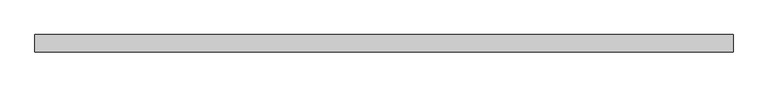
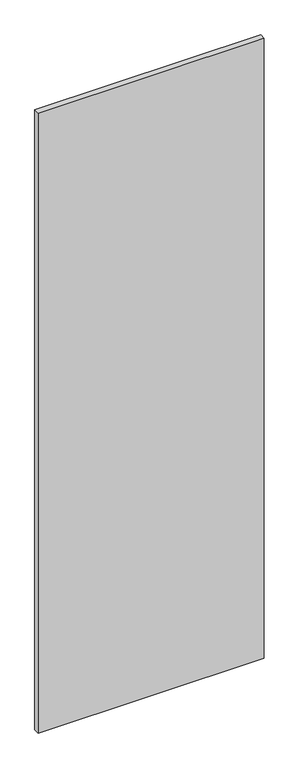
"""IFC4 building model written with IfcOpenShell, lengths in millimetres: plate geometry, Системная панель : ADSK_Cтеклопакет_25."""

import ifcopenshell
import ifcopenshell.guid

model = None  # the IFC model being written
_history = None  # IfcOwnerHistory: only IFC2X3 demands one
_inside = {}  # id of a spatial element -> (the spatial element, [elements in it])
_under = {}  # id of a project, library or spatial element -> (it, [spatial elements below it])
_declared = {}  # id of a project -> (the project, [libraries it declares])
_typed = {}  # id of a type object -> (the type object, [elements of that type])
_made_of = {}  # id of a material, layer set ... -> (it, [elements and type objects made of it])


def new_model(schema):
    """Start an empty IFC model of exactly this schema.

    Asked for "IFC4X3", IfcOpenShell would pick the latest addendum, in which some entities
    have other attributes; the version numbers below select the first issue.
    IFC2X3 requires an IfcOwnerHistory on every rooted entity: one is made here for all.
    """
    global model, _history
    if schema == "IFC4X3":
        model = ifcopenshell.file(schema_version=(4, 3, 0, 0))
    else:
        model = ifcopenshell.file(schema=schema)
    _inside.clear()
    _under.clear()
    _declared.clear()
    _typed.clear()
    _made_of.clear()
    _history = None
    if model.schema == "IFC2X3":
        org = make("IfcOrganization", Name="unknown")
        user = make(
            "IfcPersonAndOrganization",
            ThePerson=make("IfcPerson", FamilyName="unknown"),
            TheOrganization=org,
        )
        app = make(
            "IfcApplication",
            ApplicationDeveloper=org,
            Version="unknown",
            ApplicationFullName="unknown",
            ApplicationIdentifier="unknown",
        )
        _history = make(
            "IfcOwnerHistory",
            OwningUser=user,
            OwningApplication=app,
            ChangeAction="ADDED",
            CreationDate=0,
        )
    return model


def make(cls, **values):
    """One entity of the class cls with the attributes given. An attribute that is None is left unset."""
    return model.create_entity(
        cls, **{name: value for name, value in values.items() if value is not None}
    )


def rooted(cls, **values):
    """An entity with a GlobalId (a new one), such as an element, a storey or a relation."""
    return make(cls, GlobalId=ifcopenshell.guid.new(), OwnerHistory=_history, **values)


def si_unit(unit_type, name, prefix=None):
    """IfcSIUnit, for example si_unit("LENGTHUNIT", "METRE", prefix="MILLI")."""
    return make("IfcSIUnit", UnitType=unit_type, Prefix=prefix, Name=name)


def assignment(units):
    """IfcUnitAssignment: the units of a project."""
    return None if units is None else make("IfcUnitAssignment", Units=units)


def point(xyz):
    """IfcCartesianPoint."""
    return None if xyz is None else make("IfcCartesianPoint", Coordinates=xyz)


def direction(xyz):
    """IfcDirection."""
    return None if xyz is None else make("IfcDirection", DirectionRatios=xyz)


def frame(location, z_axis=None, x_axis=None):
    """IfcAxis2Placement3D, a coordinate frame: its origin and axes. An axis left out is left unset."""
    return make(
        "IfcAxis2Placement3D",
        Location=point(location),
        Axis=direction(z_axis),
        RefDirection=direction(x_axis),
    )


def origin():
    """The frame at (0, 0, 0) with its axes left unset."""
    return frame((0.0, 0.0, 0.0))


def origin_with_axes():
    """The frame at (0, 0, 0) with the z axis (0, 0, 1) and the x axis (1, 0, 0) written out."""
    return frame((0.0, 0.0, 0.0), z_axis=(0.0, 0.0, 1.0), x_axis=(1.0, 0.0, 0.0))


def place(relative_to, where):
    """IfcLocalPlacement: puts the frame where relative to a parent placement (None: the world)."""
    return make(
        "IfcLocalPlacement", PlacementRelTo=relative_to, RelativePlacement=where
    )


def context(
    kind, dimensions, precision=None, world=None, true_north=None, identifier=None
):
    """IfcGeometricRepresentationContext, for example the 3D "Model" context."""
    return make(
        "IfcGeometricRepresentationContext",
        ContextIdentifier=identifier,
        ContextType=kind,
        CoordinateSpaceDimension=dimensions,
        Precision=precision,
        WorldCoordinateSystem=world,
        TrueNorth=true_north,
    )


def project(units=None, contexts=None):
    """IfcProject with its units and contexts."""
    return rooted(
        "IfcProject",
        Name="project",
        RepresentationContexts=contexts,
        UnitsInContext=assignment(units),
    )


def spatial(cls, under=None, at=None, **own):
    """A site, building, storey or space (cls), placed at a placement, below another one or the project."""
    s = rooted(cls, ObjectPlacement=at, **own)
    if under is not None:
        _under.setdefault(under.id(), (under, []))[1].append(s)
    return s


def polyline(points):
    """IfcPolyline through the points."""
    return make("IfcPolyline", Points=[point(p) for p in points])


def outline(outer, holes=None, kind="AREA"):
    """IfcArbitraryClosedProfileDef: a profile drawn as a closed curve; with holes, ...WithVoids."""
    if holes is None:
        return make("IfcArbitraryClosedProfileDef", ProfileType=kind, OuterCurve=outer)
    return make(
        "IfcArbitraryProfileDefWithVoids",
        ProfileType=kind,
        OuterCurve=outer,
        InnerCurves=holes,
    )


def extrude(swept, where, along, depth):
    """IfcExtrudedAreaSolid: the profile swept, set in the frame where, extruded along a direction by depth."""
    return make(
        "IfcExtrudedAreaSolid",
        SweptArea=swept,
        Position=where,
        ExtrudedDirection=direction(along),
        Depth=depth,
    )


def shape(context_of_items, identifier, shape_type, items):
    """IfcShapeRepresentation: the items that make up one representation, for example the "Body"."""
    return make(
        "IfcShapeRepresentation",
        ContextOfItems=context_of_items,
        RepresentationIdentifier=identifier,
        RepresentationType=shape_type,
        Items=items,
    )


def source(mapping_origin, context_of_items, identifier, shape_type, items):
    """IfcRepresentationMap: a shape defined once, which mapped items show again and again."""
    return make(
        "IfcRepresentationMap",
        MappingOrigin=mapping_origin,
        MappedRepresentation=shape(context_of_items, identifier, shape_type, items),
    )


def transform(
    local_origin,
    x_axis=None,
    y_axis=None,
    z_axis=None,
    scale=None,
    scale2=None,
    scale3=None,
    uniform=True,
):
    """IfcCartesianTransformationOperator3D, or its non-uniform kind. x_axis, y_axis, z_axis: its Axis1, 2, 3."""
    if uniform:
        return make(
            "IfcCartesianTransformationOperator3D",
            Axis1=direction(x_axis),
            Axis2=direction(y_axis),
            LocalOrigin=point(local_origin),
            Scale=scale,
            Axis3=direction(z_axis),
        )
    return make(
        "IfcCartesianTransformationOperator3DnonUniform",
        Axis1=direction(x_axis),
        Axis2=direction(y_axis),
        LocalOrigin=point(local_origin),
        Scale=scale,
        Axis3=direction(z_axis),
        Scale2=scale2,
        Scale3=scale3,
    )


def mapped(mapping_source, mapping_target):
    """IfcMappedItem: shows the shape of a source again, moved by a transform."""
    return make(
        "IfcMappedItem", MappingSource=mapping_source, MappingTarget=mapping_target
    )


def made_of(thing, what):
    """Note that an element or type object is made of a material, layer set ...; save() writes the relation."""
    if what is not None:
        _made_of.setdefault(what.id(), (what, []))[1].append(thing)
    return thing


def element(
    cls,
    number,
    at=None,
    inside=None,
    cuts=None,
    type_object=None,
    material=None,
    context=None,
    identifier="Body",
    shape_type=None,
    held_by="IfcProductDefinitionShape",
    body=None,
    shapes=None,
    **own,
):
    """One element of the class cls, such as IfcWall. Its Tag is "e" and its number.

    at: its placement. inside: the storey or other place that contains it. cuts: it is an
    opening in that element (IfcRelVoidsElement). A single representation is given by context,
    identifier, shape_type and body (its items); several are given by shapes. held_by: the class
    of the entity that holds the representations. save() writes the other relations.
    """
    e = rooted(cls, Tag="e%d" % number, ObjectPlacement=at, **own)
    if body is not None:
        shapes = [shape(context, identifier, shape_type, body)]
    if shapes is not None:
        e.Representation = make(held_by, Representations=shapes)
    if inside is not None:
        _inside.setdefault(inside.id(), (inside, []))[1].append(e)
    if cuts is not None:
        rooted(
            "IfcRelVoidsElement", RelatingBuildingElement=cuts, RelatedOpeningElement=e
        )
    if type_object is not None:
        _typed.setdefault(type_object.id(), (type_object, []))[1].append(e)
    return made_of(e, material)


def aggregate(whole, parts):
    """IfcRelAggregates: a whole, such as a stair, and the parts it consists of."""
    return rooted("IfcRelAggregates", RelatingObject=whole, RelatedObjects=parts)


def save(model, path):
    """Write the relations noted so far, then the file.

    IfcRelAggregates (storeys below a building ...), IfcRelContainedInSpatialStructure (elements
    in a storey), IfcRelDefinesByType, IfcRelAssociatesMaterial and IfcRelDeclares: one each for
    every whole, place, type object, material and project.
    """
    for whole, parts in _under.values():
        aggregate(whole, parts)
    for where, things in _inside.values():
        rooted(
            "IfcRelContainedInSpatialStructure",
            RelatedElements=things,
            RelatingStructure=where,
        )
    for kind, things in _typed.values():
        rooted("IfcRelDefinesByType", RelatedObjects=things, RelatingType=kind)
    for what, things in _made_of.values():
        rooted("IfcRelAssociatesMaterial", RelatedObjects=things, RelatingMaterial=what)
    for by, libraries in _declared.values():
        rooted("IfcRelDeclares", RelatingContext=by, RelatedDefinitions=libraries)
    model.write(path)


def plate_79200ca4(model_context):
    return source(origin(), model_context, "Body", "SweptSolid", [
        extrude(outline(polyline([(505.0, -12.5), (-505.0, -12.5), (-505.0, 12.5), (505.0, 12.5), (505.0, -12.5)])), origin_with_axes(), (0.0, 0.0, 1.0), 2925.0),
    ])


if __name__ == "__main__":
    model = new_model("IFC4")
    model_context = context("Model", 3, world=origin())
    ifc_project = project(units=[si_unit("LENGTHUNIT", "METRE", prefix="MILLI")], contexts=[model_context])
    site = spatial("IfcSite", under=ifc_project)
    building = spatial("IfcBuilding", under=site)
    placement = place(None, origin())
    plate_shape = plate_79200ca4(model_context)
    element("IfcPlate", 1, ObjectType="Системная панель : ADSK_Cтеклопакет_25", at=placement, inside=building, context=model_context, shape_type="MappedRepresentation", body=[
        mapped(plate_shape, transform((0.0, 0.0, 0.0), x_axis=(1.0, 0.0, 0.0), y_axis=(0.0, 1.0, 0.0), z_axis=(0.0, 0.0, 1.0))),
    ])
    save(model, "model.ifc")
